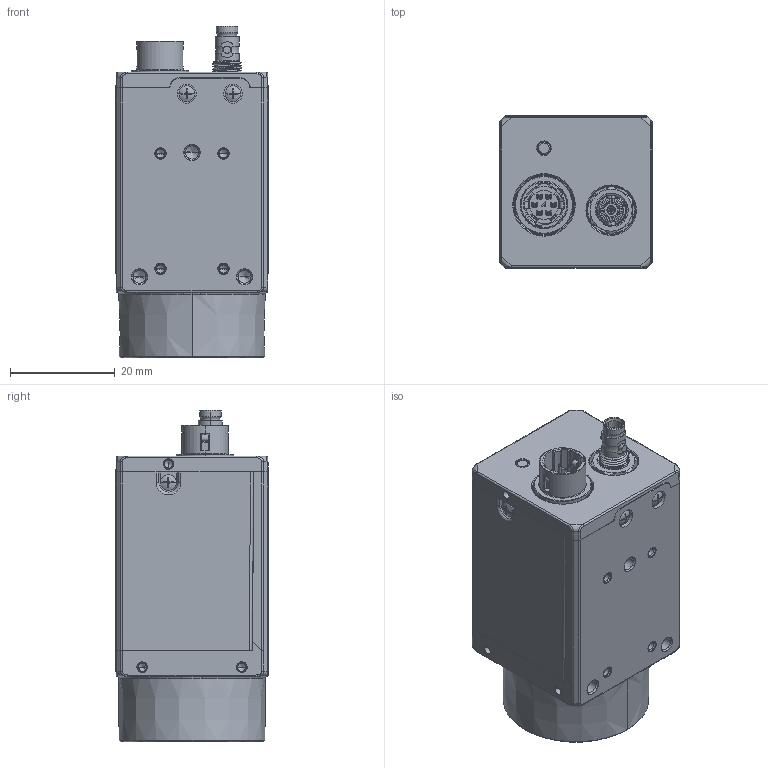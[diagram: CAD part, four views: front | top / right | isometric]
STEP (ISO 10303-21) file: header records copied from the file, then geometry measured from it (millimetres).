
FILE_DESCRIPTION((''),'2;1');
FILE_NAME('MV-CH120-60Y1NN','2026-01-20T14:36:40',('pengxianzu'),(''),'CREO PARAMETRIC BY PTC INC, 2020044','CREO PARAMETRIC BY PTC INC, 2020044','');
FILE_SCHEMA(('CONFIG_CONTROL_DESIGN'));
Products named in the file (1): MV-CH120-60Y1NN
Bounding box: 29.03 x 29 x 63.26 mm (x, y, z)
Volume: 5945.2 mm3; surface area: 21965 mm2
Topology: 5 solids, 55 shells, 3050 faces, 8441 edges, 5464 vertices
Faces by surface type: plane 1364, cylinder 866, cone 314, bspline 312, torus 181, sphere 13
Entity records: 174617 total; most frequent: CARTESIAN_POINT 99511, ORIENTED_EDGE 16626, DIRECTION 14353, EDGE_CURVE 8403, VERTEX_POINT 5464, AXIS2_PLACEMENT_3D 5084, VECTOR 4185, LINE 4185
